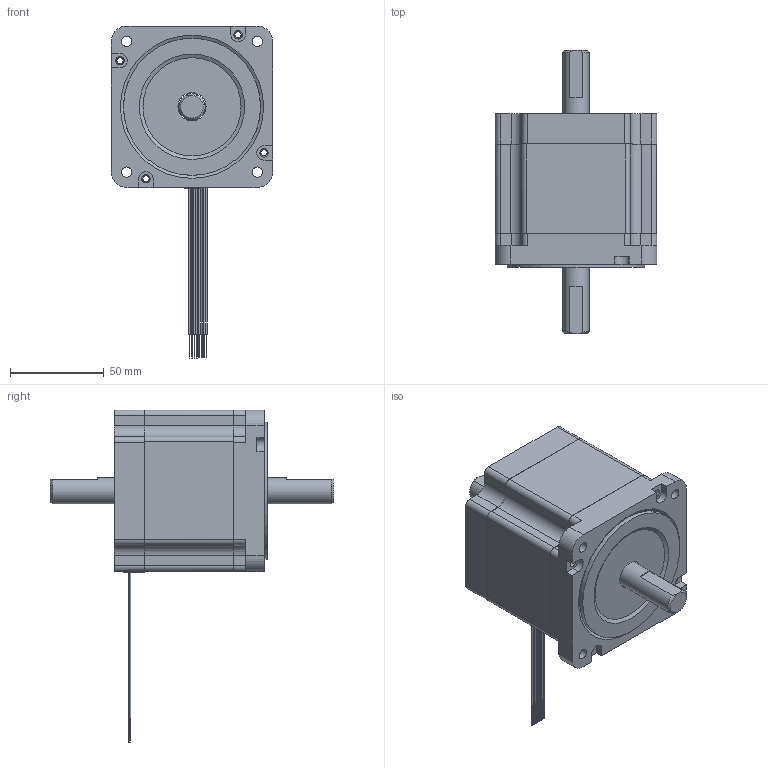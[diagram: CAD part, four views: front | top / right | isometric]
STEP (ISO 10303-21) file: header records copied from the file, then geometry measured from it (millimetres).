
FILE_DESCRIPTION( ('This file contains a STEP AP42 implementation' ,'as created by ZW3D STEP Interface translator.' ,'') ,'2;1' );
FILE_NAME( '34H2080-45-4B-XXX.stp' ,'26 115.14 550', (''), ('ZWCAD Software Co.'), 'Version 1.0', 'ZW3D to STEP translator', '' );
FILE_SCHEMA(('AUTOMOTIVE_DESIGN { 1 0 10303 214 1 1 1 1 }'));
Length unit declared in the file: millimetre
Products named in the file (1): 0
Bounding box: 86 x 151 x 176.75 mm (x, y, z)
Volume: 219746.1 mm3; surface area: 92298.7 mm2
Topology: 6 solids, 6 shells, 305 faces, 751 edges, 493 vertices
Faces by surface type: plane 166, cylinder 134, cone 5
Full cylindrical faces by diameter (mm): 3.3 x4, 4.5 x4, 5.08 x4, 5.5 x4, 14 x1, 15 x2, 36 x1, 42 x2, 52.27 x1, 52.273 x1, 73 x1, 78.679 x1, 80 x2
Entity records: 9464 total; most frequent: DIRECTION 1642, CARTESIAN_POINT 1613, ORIENTED_EDGE 1502, EDGE_CURVE 751, AXIS2_PLACEMENT_3D 610, VERTEX_POINT 493, VECTOR 422, LINE 422
